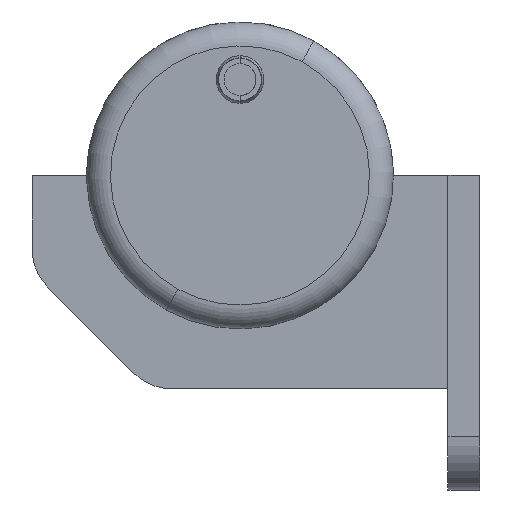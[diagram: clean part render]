
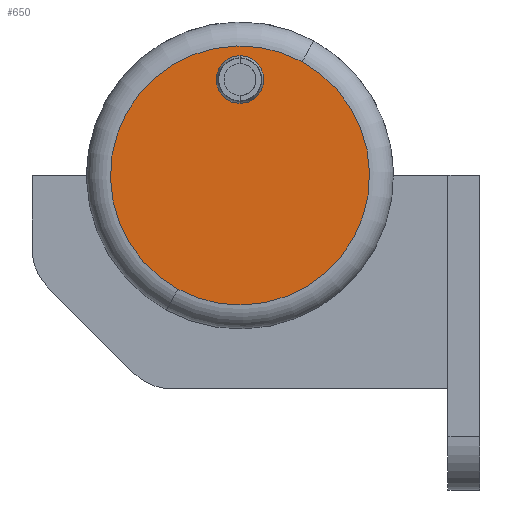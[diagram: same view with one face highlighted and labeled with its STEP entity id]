
A CAD part, left-side view. The second image highlights one B-rep face of the part: STEP entity #650.
In plain terms, the highlighted planar face has unit normal (-1, 0, 0).
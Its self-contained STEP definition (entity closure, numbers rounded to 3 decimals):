
#556=CARTESIAN_POINT('Vertex',(-67.,4.25,18.)) ;
#563=CARTESIAN_POINT('Vertex',(-67.,-4.25,18.)) ;
#566=CARTESIAN_POINT('Axis2P3D Location',(-67.,0.,18.)) ;
#583=CARTESIAN_POINT('Axis2P3D Location',(-67.,0.,18.)) ;
#623=CARTESIAN_POINT('Axis2P3D Location',(-67.,0.,24.3)) ;
#628=CARTESIAN_POINT('Axis2P3D Location',(-67.,0.,0.)) ;
#632=CARTESIAN_POINT('Vertex',(-67.,-11.65,21.325)) ;
#634=CARTESIAN_POINT('Vertex',(-67.,11.65,-21.325)) ;
#637=CARTESIAN_POINT('Axis2P3D Location',(-67.,0.,0.)) ;
#567=DIRECTION('Axis2P3D Direction',(-1.,0.,0.)) ;
#584=DIRECTION('Axis2P3D Direction',(-1.,0.,0.)) ;
#624=DIRECTION('Axis2P3D Direction',(1.,0.,0.)) ;
#625=DIRECTION('Axis2P3D XDirection',(0.,-1.,0.)) ;
#629=DIRECTION('Axis2P3D Direction',(1.,0.,0.)) ;
#638=DIRECTION('Axis2P3D Direction',(1.,0.,0.)) ;
#568=AXIS2_PLACEMENT_3D('Circle Axis2P3D',#566,#567,$) ;
#585=AXIS2_PLACEMENT_3D('Circle Axis2P3D',#583,#584,$) ;
#626=AXIS2_PLACEMENT_3D('Plane Axis2P3D',#623,#624,#625) ;
#630=AXIS2_PLACEMENT_3D('Circle Axis2P3D',#628,#629,$) ;
#639=AXIS2_PLACEMENT_3D('Circle Axis2P3D',#637,#638,$) ;
#643=ORIENTED_EDGE('',*,*,#636,.F.) ;
#644=ORIENTED_EDGE('',*,*,#641,.F.) ;
#647=ORIENTED_EDGE('',*,*,#587,.T.) ;
#648=ORIENTED_EDGE('',*,*,#570,.T.) ;
#649=FACE_BOUND('',#646,.T.) ;
#650=ADVANCED_FACE('ADAPTER RESERVOIR - CAP|prd01702007|PartBody',(#645,#649),#627,.F.) ;
#569=CIRCLE('generated circle',#568,4.25) ;
#586=CIRCLE('generated circle',#585,4.25) ;
#631=CIRCLE('generated circle',#630,24.3) ;
#640=CIRCLE('generated circle',#639,24.3) ;
#570=EDGE_CURVE('',#557,#564,#569,.F.) ;
#587=EDGE_CURVE('',#564,#557,#586,.F.) ;
#636=EDGE_CURVE('',#633,#635,#631,.T.) ;
#641=EDGE_CURVE('',#635,#633,#640,.T.) ;
#642=EDGE_LOOP('',(#643,#644)) ;
#646=EDGE_LOOP('',(#647,#648)) ;
#645=FACE_OUTER_BOUND('',#642,.T.) ;
#627=PLANE('',#626) ;
#557=VERTEX_POINT('',#556) ;
#564=VERTEX_POINT('',#563) ;
#633=VERTEX_POINT('',#632) ;
#635=VERTEX_POINT('',#634) ;
